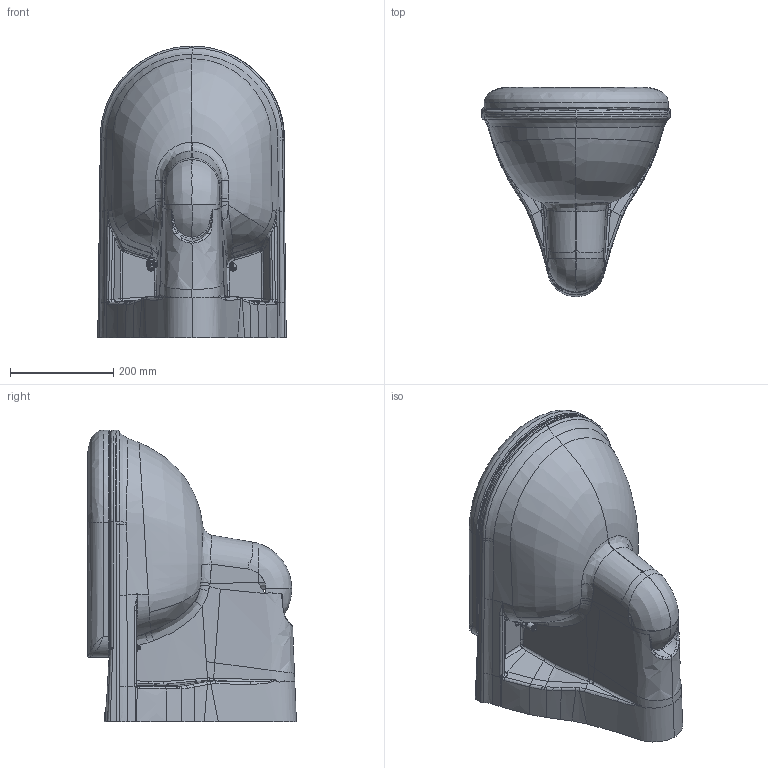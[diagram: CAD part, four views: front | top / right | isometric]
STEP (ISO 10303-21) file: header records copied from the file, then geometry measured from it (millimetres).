
FILE_DESCRIPTION (( 'STEP AP203' ), '1' );
FILE_NAME ('sl320-.STEP', '2023-06-02T14:25:58', ( '' ), ( '' ), 'SwSTEP 2.0', 'SolidWorks 2023', '' );
FILE_SCHEMA (( 'CONFIG_CONTROL_DESIGN' ));
Length unit declared in the file: millimetre
Products named in the file (1): sl320-
Bounding box: 365 x 404.5 x 565.35 mm (x, y, z)
Surface area: 1783462 mm2 (no closed solid volume)
Topology: 0 solids, 46 shells, 2944 faces, 7608 edges, 4689 vertices
Faces by surface type: cylinder 1064, bspline 916, plane 511, torus 253, cone 121, sphere 79
Entity records: 350382 total; most frequent: CARTESIAN_POINT 299134, ORIENTED_EDGE 14892, EDGE_CURVE 7505, B_SPLINE_CURVE_WITH_KNOTS 6700, VERTEX_POINT 4686, DIRECTION 4062, EDGE_LOOP 3028, FACE_OUTER_BOUND 2944
